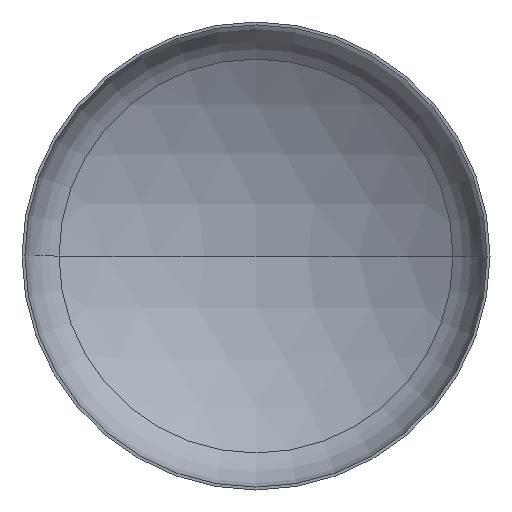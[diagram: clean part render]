
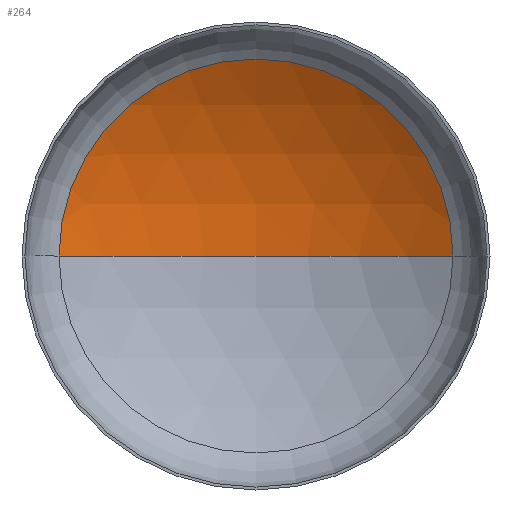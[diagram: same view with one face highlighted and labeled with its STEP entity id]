
A CAD part, front view. The second image highlights one B-rep face of the part: STEP entity #264.
In plain terms, the highlighted spherical face has radius 6000 mm.
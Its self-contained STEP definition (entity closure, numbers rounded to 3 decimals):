
#30 = CARTESIAN_POINT ( 'NONE',  ( 0., 2019.73, 0. ) ) ;
#35 = AXIS2_PLACEMENT_3D ( 'NONE', #383, #388, #384 ) ;
#76 = AXIS2_PLACEMENT_3D ( 'NONE', #176, #181, #182 ) ;
#79 = AXIS2_PLACEMENT_3D ( 'NONE', #206, #207, #200 ) ;
#80 = ORIENTED_EDGE ( 'NONE', *, *, #132, .T. ) ;
#82 = AXIS2_PLACEMENT_3D ( 'NONE', #187, #302, #301 ) ;
#89 = ORIENTED_EDGE ( 'NONE', *, *, #134, .T. ) ;
#93 = VERTEX_POINT ( 'NONE', #218 ) ;
#104 = EDGE_LOOP ( 'NONE', ( #411, #89, #80 ) ) ;
#114 = VERTEX_POINT ( 'NONE', #236 ) ;
#132 = EDGE_CURVE ( 'NONE', #114, #93, #344, .T. ) ;
#134 = EDGE_CURVE ( 'NONE', #248, #114, #400, .T. ) ;
#139 = EDGE_CURVE ( 'NONE', #248, #93, #392, .T. ) ;
#176 = CARTESIAN_POINT ( 'NONE',  ( 0., -3980.27, 0. ) ) ;
#181 = DIRECTION ( 'NONE',  ( 0., 0., 1. ) ) ;
#182 = DIRECTION ( 'NONE',  ( 1., 0., 0. ) ) ;
#187 = CARTESIAN_POINT ( 'NONE',  ( 0., 1122.232, 0. ) ) ;
#200 = DIRECTION ( 'NONE',  ( -1., 0., 0. ) ) ;
#206 = CARTESIAN_POINT ( 'NONE',  ( 0., -3980.27, 0. ) ) ;
#207 = DIRECTION ( 'NONE',  ( 0., 0., -1. ) ) ;
#218 = CARTESIAN_POINT ( 'NONE',  ( -3156.656, 1122.232, 0. ) ) ;
#236 = CARTESIAN_POINT ( 'NONE',  ( 3156.656, 1122.232, 0. ) ) ;
#248 = VERTEX_POINT ( 'NONE', #30 ) ;
#264 = ADVANCED_FACE ( 'NONE', ( #366 ), #321, .F. ) ;
#301 = DIRECTION ( 'NONE',  ( 1., 0., 0. ) ) ;
#302 = DIRECTION ( 'NONE',  ( 0., -1., 0. ) ) ;
#321 = SPHERICAL_SURFACE ( 'NONE', #35, 6000. ) ;
#344 = CIRCLE ( 'NONE', #82, 3156.656 ) ;
#366 = FACE_OUTER_BOUND ( 'NONE', #104, .T. ) ;
#383 = CARTESIAN_POINT ( 'NONE',  ( 0., -3980.27, 0. ) ) ;
#384 = DIRECTION ( 'NONE',  ( -1., 0., 0. ) ) ;
#388 = DIRECTION ( 'NONE',  ( 0., 0., -1. ) ) ;
#392 = CIRCLE ( 'NONE', #76, 6000. ) ;
#400 = CIRCLE ( 'NONE', #79, 6000. ) ;
#411 = ORIENTED_EDGE ( 'NONE', *, *, #139, .F. ) ;
